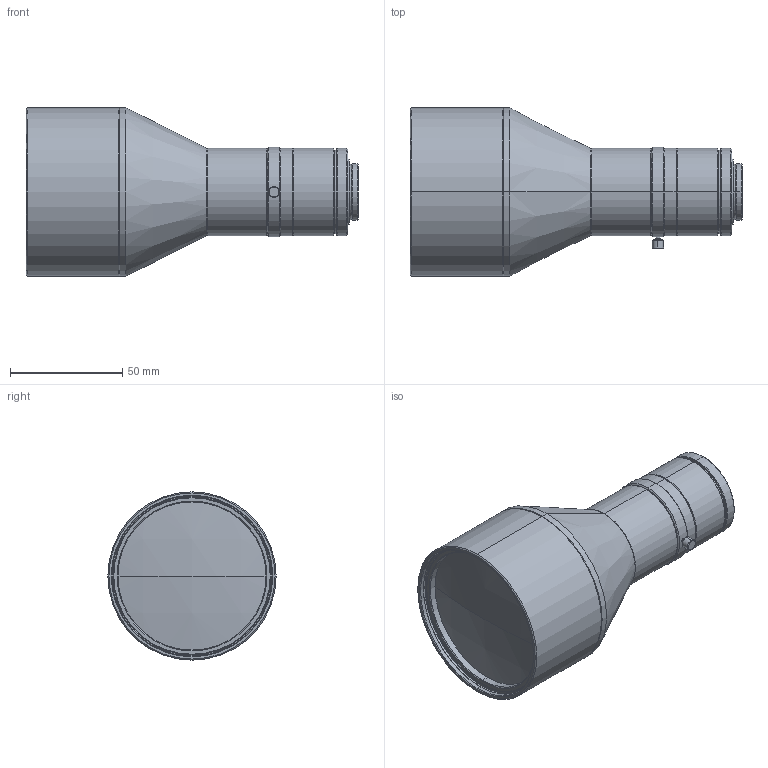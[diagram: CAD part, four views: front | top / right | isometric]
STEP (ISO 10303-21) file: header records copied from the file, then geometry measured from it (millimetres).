
FILE_DESCRIPTION (( 'STEP AP203' ), '1' );
FILE_NAME ('VS-TCM019-130_S.STEP', '2016-06-13T01:30:19', ( 'miura_vst' ), ( '' ), 'SwSTEP 2.0', 'SolidWorks 2016', '' );
FILE_SCHEMA (( 'CONFIG_CONTROL_DESIGN' ));
Length unit declared in the file: millimetre
Products named in the file (1): VS-TCM019-130_S
Bounding box: 147.97 x 75 x 75 mm (x, y, z)
Volume: 341489 mm3; surface area: 35570.7 mm2
Topology: 1 solids, 1 shells, 140 faces, 282 edges, 164 vertices
Faces by surface type: cone 74, cylinder 42, plane 20, sphere 4
Entity records: 3739 total; most frequent: DIRECTION 726, CARTESIAN_POINT 619, ORIENTED_EDGE 564, AXIS2_PLACEMENT_3D 305, EDGE_CURVE 282, CIRCLE 164, VERTEX_POINT 164, EDGE_LOOP 160
